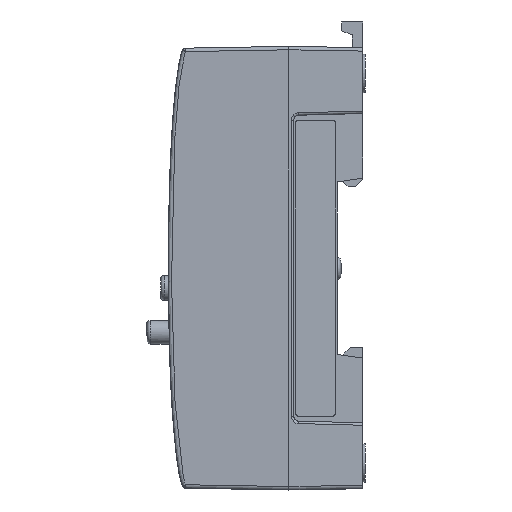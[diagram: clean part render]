
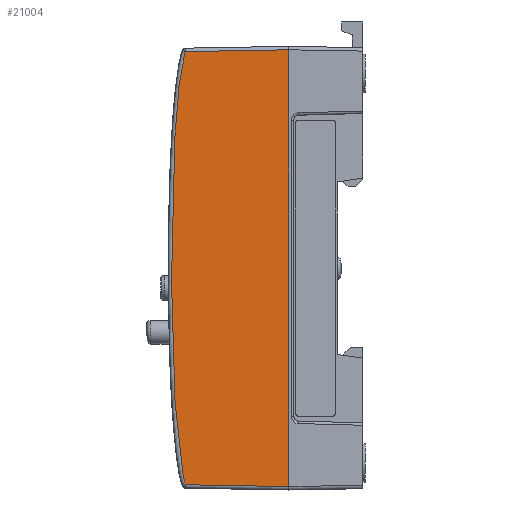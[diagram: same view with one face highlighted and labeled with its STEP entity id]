
A CAD part, left-side view. The second image highlights one B-rep face of the part: STEP entity #21004.
In plain terms, the highlighted planar face has unit normal (-1, 0.018, 0).
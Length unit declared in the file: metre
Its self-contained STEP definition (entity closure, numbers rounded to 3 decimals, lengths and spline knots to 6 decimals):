
#24=B_SPLINE_CURVE_WITH_KNOTS('',3,(#30560,#30561,#30562,#30563,#30564,
#30565,#30566,#30567,#30568,#30569,#30570,#30571,#30572,#30573,#30574,#30575,
#30576,#30577,#30578,#30579,#30580,#30581,#30582),.UNSPECIFIED.,.F.,.F.,
(4,1,1,1,1,1,1,1,1,1,1,1,1,1,1,1,1,1,1,1,4),(0.,0.001385,0.00277,
0.00554,0.00831,0.01108,0.01662,
0.02216,0.0277,0.03324,0.044319,
0.055399,0.060939,0.066479,0.072019,
0.077559,0.080329,0.083099,0.085869,
0.087254,0.088639),.UNSPECIFIED.);
#1562=ORIENTED_EDGE('',*,*,#7253,.T.);
#1563=ORIENTED_EDGE('',*,*,#7399,.T.);
#1564=ORIENTED_EDGE('',*,*,#7400,.T.);
#1565=ORIENTED_EDGE('',*,*,#7401,.T.);
#7253=EDGE_CURVE('',#10249,#10248,#12288,.F.);
#7399=EDGE_CURVE('',#10248,#10330,#12402,.F.);
#7400=EDGE_CURVE('',#10330,#10331,#24,.T.);
#7401=EDGE_CURVE('',#10331,#10249,#12403,.F.);
#10248=VERTEX_POINT('',#30051);
#10249=VERTEX_POINT('',#30053);
#10330=VERTEX_POINT('',#30559);
#10331=VERTEX_POINT('',#30583);
#12288=LINE('',#30052,#14830);
#12402=LINE('',#30558,#14944);
#12403=LINE('',#30584,#14945);
#14830=VECTOR('',#25007,1.);
#14944=VECTOR('',#25297,1.);
#14945=VECTOR('',#25298,1.);
#17307=EDGE_LOOP('',(#1562,#1563,#1564,#1565));
#18685=FACE_BOUND('',#17307,.T.);
#20021=PLANE('',#23641);
#21004=ADVANCED_FACE('',(#18685),#20021,.T.);
#23641=AXIS2_PLACEMENT_3D('',#30557,#25295,#25296);
#25007=DIRECTION('',(0.,0.,-1.));
#25295=DIRECTION('',(-1.,0.017,0.));
#25296=DIRECTION('',(0.017,1.,0.));
#25297=DIRECTION('',(-0.017,-1.,0.017));
#25298=DIRECTION('',(0.017,1.,0.017));
#30051=CARTESIAN_POINT('',(-0.05375,0.,0.0443));
#30052=CARTESIAN_POINT('',(-0.05375,0.,0.));
#30053=CARTESIAN_POINT('',(-0.05375,0.,-0.0443));
#30557=CARTESIAN_POINT('',(-0.05375,0.,0.));
#30558=CARTESIAN_POINT('',(-0.053379,0.021245,0.043929));
#30559=CARTESIAN_POINT('',(-0.053385,0.020909,0.043935));
#30560=CARTESIAN_POINT('',(-0.053385,0.020909,0.043935));
#30561=CARTESIAN_POINT('',(-0.053381,0.021124,0.043525));
#30562=CARTESIAN_POINT('',(-0.053377,0.021367,0.042631));
#30563=CARTESIAN_POINT('',(-0.05337,0.021759,0.040836));
#30564=CARTESIAN_POINT('',(-0.053364,0.022097,0.038558));
#30565=CARTESIAN_POINT('',(-0.053359,0.022417,0.035817));
#30566=CARTESIAN_POINT('',(-0.053353,0.02276,0.032155));
#30567=CARTESIAN_POINT('',(-0.053347,0.023085,0.02757));
#30568=CARTESIAN_POINT('',(-0.053342,0.02337,0.022059));
#30569=CARTESIAN_POINT('',(-0.053338,0.023575,0.016545));
#30570=CARTESIAN_POINT('',(-0.053335,0.02376,0.009193));
#30571=CARTESIAN_POINT('',(-0.053334,0.023847,0.000001));
#30572=CARTESIAN_POINT('',(-0.053335,0.02376,-0.009196));
#30573=CARTESIAN_POINT('',(-0.053339,0.023575,-0.016547));
#30574=CARTESIAN_POINT('',(-0.053342,0.02337,-0.022058));
#30575=CARTESIAN_POINT('',(-0.053347,0.023086,-0.027566));
#30576=CARTESIAN_POINT('',(-0.053353,0.022761,-0.032152));
#30577=CARTESIAN_POINT('',(-0.053359,0.022417,-0.035817));
#30578=CARTESIAN_POINT('',(-0.053364,0.022097,-0.038557));
#30579=CARTESIAN_POINT('',(-0.05337,0.02176,-0.040832));
#30580=CARTESIAN_POINT('',(-0.053377,0.021366,-0.042633));
#30581=CARTESIAN_POINT('',(-0.053381,0.021126,-0.043521));
#30582=CARTESIAN_POINT('',(-0.053385,0.020909,-0.043935));
#30583=CARTESIAN_POINT('',(-0.053385,0.020909,-0.043935));
#30584=CARTESIAN_POINT('',(-0.053737,0.000773,-0.044287));
